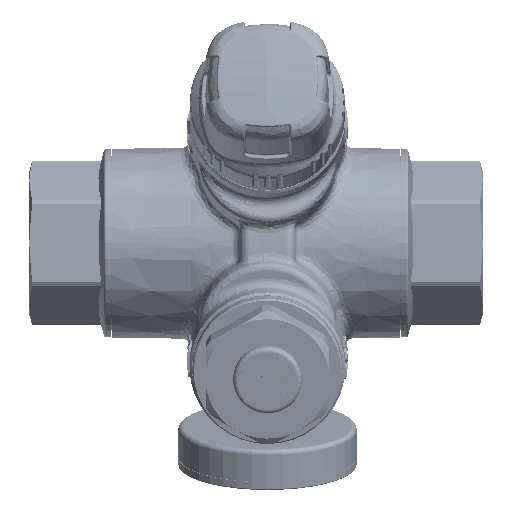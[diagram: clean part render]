
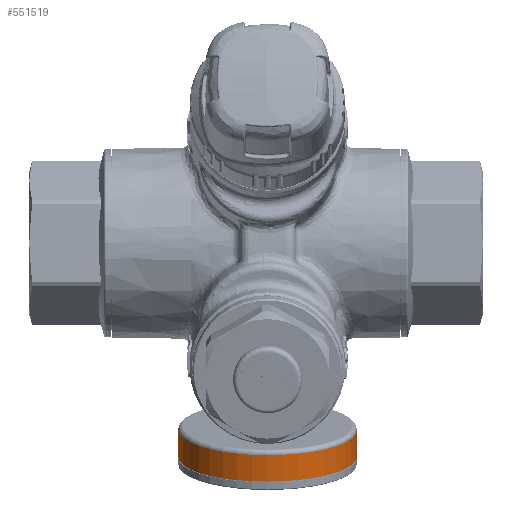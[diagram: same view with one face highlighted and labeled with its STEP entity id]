
A CAD part, top view. The second image highlights one B-rep face of the part: STEP entity #551519.
In plain terms, the highlighted cylindrical face has radius 19.5 mm (diameter 39 mm), a partial arc.
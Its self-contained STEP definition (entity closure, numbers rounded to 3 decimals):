
#551364 = PLANE('',#551365);
#551365 = AXIS2_PLACEMENT_3D('',#551366,#551367,#551368);
#551366 = CARTESIAN_POINT('',(-0.145,31.093,
    28.181));
#551367 = DIRECTION('',(0.,-0.959,
    -0.282));
#551368 = DIRECTION('',(-1.,0.,0.));
#551455 = VERTEX_POINT('',#551456);
#551456 = CARTESIAN_POINT('',(19.355,31.093,
    28.181));
#551457 = VERTEX_POINT('',#551458);
#551458 = CARTESIAN_POINT('',(-19.645,31.093,
    28.181));
#551477 = CYLINDRICAL_SURFACE('',#551478,19.5);
#551478 = AXIS2_PLACEMENT_3D('',#551479,#551480,#551481);
#551479 = CARTESIAN_POINT('',(-0.145,48.313,
    33.248));
#551480 = DIRECTION('',(0.,-0.959,
    -0.282));
#551481 = DIRECTION('',(-1.,0.,0.));
#551489 = EDGE_CURVE('',#551455,#551457,#551490,.T.);
#551490 = SURFACE_CURVE('',#551491,(#551496,#551503),.PCURVE_S1.);
#551491 = CIRCLE('',#551492,19.5);
#551492 = AXIS2_PLACEMENT_3D('',#551493,#551494,#551495);
#551493 = CARTESIAN_POINT('',(-0.145,31.093,
    28.181));
#551494 = DIRECTION('',(0.,-0.959,
    -0.282));
#551495 = DIRECTION('',(1.,0.,0.));
#551496 = PCURVE('',#551364,#551497);
#551497 = DEFINITIONAL_REPRESENTATION('',(#551498),#551502);
#551498 = CIRCLE('',#551499,19.5);
#551499 = AXIS2_PLACEMENT_2D('',#551500,#551501);
#551500 = CARTESIAN_POINT('',(0.,0.));
#551501 = DIRECTION('',(-1.,0.));
#551502 = ( GEOMETRIC_REPRESENTATION_CONTEXT(2) 
PARAMETRIC_REPRESENTATION_CONTEXT() REPRESENTATION_CONTEXT('2D SPACE',''
  ) );
#551503 = PCURVE('',#551504,#551509);
#551504 = CYLINDRICAL_SURFACE('',#551505,19.5);
#551505 = AXIS2_PLACEMENT_3D('',#551506,#551507,#551508);
#551506 = CARTESIAN_POINT('',(-0.145,48.313,
    33.248));
#551507 = DIRECTION('',(0.,-0.959,
    -0.282));
#551508 = DIRECTION('',(-1.,0.,0.));
#551509 = DEFINITIONAL_REPRESENTATION('',(#551510),#551514);
#551510 = LINE('',#551511,#551512);
#551511 = CARTESIAN_POINT('',(3.142,17.95));
#551512 = VECTOR('',#551513,1.);
#551513 = DIRECTION('',(1.,0.));
#551514 = ( GEOMETRIC_REPRESENTATION_CONTEXT(2) 
PARAMETRIC_REPRESENTATION_CONTEXT() REPRESENTATION_CONTEXT('2D SPACE',''
  ) );
#551519 = ADVANCED_FACE('',(#551520),#551504,.T.);
#551520 = FACE_BOUND('',#551521,.T.);
#551521 = EDGE_LOOP('',(#551522,#551545,#551546,#551569));
#551522 = ORIENTED_EDGE('',*,*,#551523,.F.);
#551523 = EDGE_CURVE('',#551457,#551524,#551526,.T.);
#551524 = VERTEX_POINT('',#551525);
#551525 = CARTESIAN_POINT('',(-19.645,36.849,
    29.875));
#551526 = SURFACE_CURVE('',#551527,(#551531,#551538),.PCURVE_S1.);
#551527 = LINE('',#551528,#551529);
#551528 = CARTESIAN_POINT('',(-19.645,31.093,
    28.181));
#551529 = VECTOR('',#551530,1.);
#551530 = DIRECTION('',(0.,0.959,0.282));
#551531 = PCURVE('',#551504,#551532);
#551532 = DEFINITIONAL_REPRESENTATION('',(#551533),#551537);
#551533 = LINE('',#551534,#551535);
#551534 = CARTESIAN_POINT('',(6.283,17.95));
#551535 = VECTOR('',#551536,1.);
#551536 = DIRECTION('',(0.,-1.));
#551537 = ( GEOMETRIC_REPRESENTATION_CONTEXT(2) 
PARAMETRIC_REPRESENTATION_CONTEXT() REPRESENTATION_CONTEXT('2D SPACE',''
  ) );
#551538 = PCURVE('',#551477,#551539);
#551539 = DEFINITIONAL_REPRESENTATION('',(#551540),#551544);
#551540 = LINE('',#551541,#551542);
#551541 = CARTESIAN_POINT('',(0.,17.95));
#551542 = VECTOR('',#551543,1.);
#551543 = DIRECTION('',(0.,-1.));
#551544 = ( GEOMETRIC_REPRESENTATION_CONTEXT(2) 
PARAMETRIC_REPRESENTATION_CONTEXT() REPRESENTATION_CONTEXT('2D SPACE',''
  ) );
#551545 = ORIENTED_EDGE('',*,*,#551489,.F.);
#551546 = ORIENTED_EDGE('',*,*,#551547,.T.);
#551547 = EDGE_CURVE('',#551455,#551548,#551550,.T.);
#551548 = VERTEX_POINT('',#551549);
#551549 = CARTESIAN_POINT('',(19.355,36.849,
    29.875));
#551550 = SURFACE_CURVE('',#551551,(#551555,#551562),.PCURVE_S1.);
#551551 = LINE('',#551552,#551553);
#551552 = CARTESIAN_POINT('',(19.355,31.093,
    28.181));
#551553 = VECTOR('',#551554,1.);
#551554 = DIRECTION('',(0.,0.959,0.282));
#551555 = PCURVE('',#551504,#551556);
#551556 = DEFINITIONAL_REPRESENTATION('',(#551557),#551561);
#551557 = LINE('',#551558,#551559);
#551558 = CARTESIAN_POINT('',(3.142,17.95));
#551559 = VECTOR('',#551560,1.);
#551560 = DIRECTION('',(0.,-1.));
#551561 = ( GEOMETRIC_REPRESENTATION_CONTEXT(2) 
PARAMETRIC_REPRESENTATION_CONTEXT() REPRESENTATION_CONTEXT('2D SPACE',''
  ) );
#551562 = PCURVE('',#551477,#551563);
#551563 = DEFINITIONAL_REPRESENTATION('',(#551564),#551568);
#551564 = LINE('',#551565,#551566);
#551565 = CARTESIAN_POINT('',(3.142,17.95));
#551566 = VECTOR('',#551567,1.);
#551567 = DIRECTION('',(0.,-1.));
#551568 = ( GEOMETRIC_REPRESENTATION_CONTEXT(2) 
PARAMETRIC_REPRESENTATION_CONTEXT() REPRESENTATION_CONTEXT('2D SPACE',''
  ) );
#551569 = ORIENTED_EDGE('',*,*,#551570,.F.);
#551570 = EDGE_CURVE('',#551524,#551548,#551571,.T.);
#551571 = SURFACE_CURVE('',#551572,(#551577,#551584),.PCURVE_S1.);
#551572 = CIRCLE('',#551573,19.5);
#551573 = AXIS2_PLACEMENT_3D('',#551574,#551575,#551576);
#551574 = CARTESIAN_POINT('',(-0.145,36.849,
    29.875));
#551575 = DIRECTION('',(0.,0.959,0.282)
  );
#551576 = DIRECTION('',(-1.,0.,0.));
#551577 = PCURVE('',#551504,#551578);
#551578 = DEFINITIONAL_REPRESENTATION('',(#551579),#551583);
#551579 = LINE('',#551580,#551581);
#551580 = CARTESIAN_POINT('',(6.283,11.95));
#551581 = VECTOR('',#551582,1.);
#551582 = DIRECTION('',(-1.,0.));
#551583 = ( GEOMETRIC_REPRESENTATION_CONTEXT(2) 
PARAMETRIC_REPRESENTATION_CONTEXT() REPRESENTATION_CONTEXT('2D SPACE',''
  ) );
#551584 = PCURVE('',#551585,#551590);
#551585 = TOROIDAL_SURFACE('',#551586,18.5,1.);
#551586 = AXIS2_PLACEMENT_3D('',#551587,#551588,#551589);
#551587 = CARTESIAN_POINT('',(-0.145,36.849,
    29.875));
#551588 = DIRECTION('',(0.,-0.959,
    -0.282));
#551589 = DIRECTION('',(-1.,0.002,
    -0.006));
#551590 = DEFINITIONAL_REPRESENTATION('',(#551591),#551617);
#551591 = B_SPLINE_CURVE_WITH_KNOTS('',3,(#551592,#551593,#551594,
    #551595,#551596,#551597,#551598,#551599,#551600,#551601,#551602,
    #551603,#551604,#551605,#551606,#551607,#551608,#551609,#551610,
    #551611,#551612,#551613,#551614,#551615,#551616),.UNSPECIFIED.,.F.,
  .F.,(4,1,1,1,1,1,1,1,1,1,1,1,1,1,1,1,1,1,1,1,1,1,4),(0.,0.143
    ,0.286,0.428,0.571,0.714,
    0.857,1.,1.142,1.285,
    1.428,1.571,1.714,1.856,
    1.999,2.142,2.285,2.428,
    2.57,2.713,2.856,2.999,
    3.142),.QUASI_UNIFORM_KNOTS.);
#551592 = CARTESIAN_POINT('',(6.277,6.283));
#551593 = CARTESIAN_POINT('',(6.229,6.283));
#551594 = CARTESIAN_POINT('',(6.134,6.283));
#551595 = CARTESIAN_POINT('',(5.991,6.283));
#551596 = CARTESIAN_POINT('',(5.848,6.283));
#551597 = CARTESIAN_POINT('',(5.705,6.283));
#551598 = CARTESIAN_POINT('',(5.563,6.283));
#551599 = CARTESIAN_POINT('',(5.42,6.283));
#551600 = CARTESIAN_POINT('',(5.277,6.283));
#551601 = CARTESIAN_POINT('',(5.134,6.283));
#551602 = CARTESIAN_POINT('',(4.991,6.283));
#551603 = CARTESIAN_POINT('',(4.849,6.283));
#551604 = CARTESIAN_POINT('',(4.706,6.283));
#551605 = CARTESIAN_POINT('',(4.563,6.283));
#551606 = CARTESIAN_POINT('',(4.42,6.283));
#551607 = CARTESIAN_POINT('',(4.277,6.283));
#551608 = CARTESIAN_POINT('',(4.135,6.283));
#551609 = CARTESIAN_POINT('',(3.992,6.283));
#551610 = CARTESIAN_POINT('',(3.849,6.283));
#551611 = CARTESIAN_POINT('',(3.706,6.283));
#551612 = CARTESIAN_POINT('',(3.563,6.283));
#551613 = CARTESIAN_POINT('',(3.421,6.283));
#551614 = CARTESIAN_POINT('',(3.278,6.283));
#551615 = CARTESIAN_POINT('',(3.183,6.283));
#551616 = CARTESIAN_POINT('',(3.135,6.283));
#551617 = ( GEOMETRIC_REPRESENTATION_CONTEXT(2) 
PARAMETRIC_REPRESENTATION_CONTEXT() REPRESENTATION_CONTEXT('2D SPACE',''
  ) );
